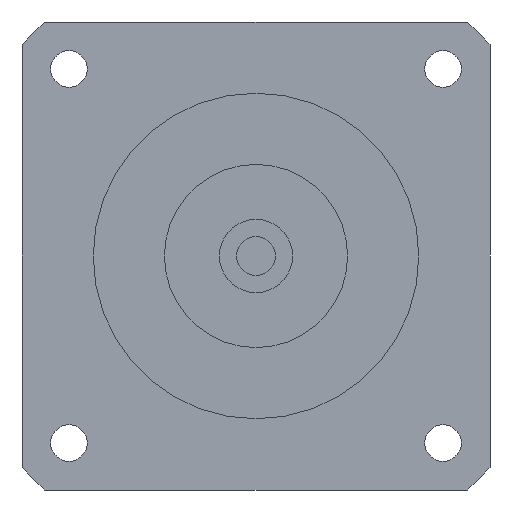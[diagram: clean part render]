
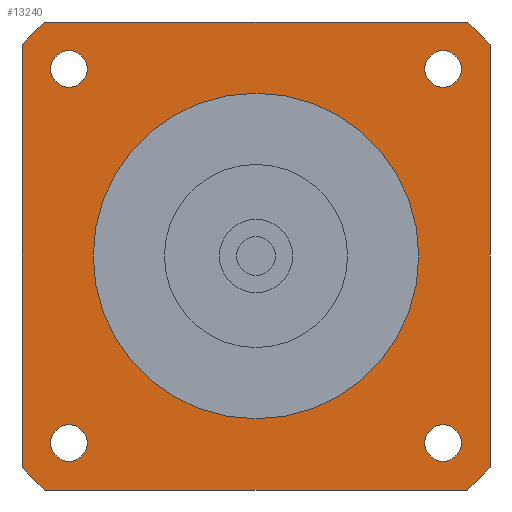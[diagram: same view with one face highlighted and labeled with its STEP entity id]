
A CAD part, left-side view. The second image highlights one B-rep face of the part: STEP entity #13240.
In plain terms, the highlighted planar face has unit normal (-1, 0, 0) as drawn and (0, 0, -1) by its records, which use the part's own axes.
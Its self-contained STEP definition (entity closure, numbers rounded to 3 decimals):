
#8660=CARTESIAN_POINT('',(-51.962,57.5,-43.2));
#8670=VERTEX_POINT('',#8660);
#8830=CARTESIAN_POINT('',(-57.5,51.962,-43.2));
#8840=VERTEX_POINT('',#8830);
#8870=CARTESIAN_POINT('',(0.,0.,
-43.2));
#8880=DIRECTION('',(0.,0.,-1.));
#8890=DIRECTION('',(-1.,0.,0.));
#8900=AXIS2_PLACEMENT_3D('',#8870,#8880,#8890);
#8910=CIRCLE('',#8900,77.5);
#8920=EDGE_CURVE('',#8840,#8670,#8910,.T.);
#9080=CARTESIAN_POINT('',(57.5,-51.962,-43.2));
#9090=VERTEX_POINT('',#9080);
#9120=CARTESIAN_POINT('',(0.,0.,
-43.2));
#9130=DIRECTION('',(0.,0.,-1.));
#9140=DIRECTION('',(-1.,0.,0.));
#9150=AXIS2_PLACEMENT_3D('',#9120,#9130,#9140);
#9160=CIRCLE('',#9150,77.5);
#9170=CARTESIAN_POINT('',(51.962,-57.5,-43.2));
#9180=VERTEX_POINT('',#9170);
#9190=EDGE_CURVE('',#9090,#9180,#9160,.T.);
#11810=CARTESIAN_POINT('',(50.462,-45.962,-43.2));
#11820=VERTEX_POINT('',#11810);
#11850=CARTESIAN_POINT('',(45.962,-45.962,-43.2));
#11860=DIRECTION('',(0.,0.,-1.));
#11870=DIRECTION('',(1.,0.,0.));
#11880=AXIS2_PLACEMENT_3D('',#11850,#11860,#11870);
#11890=CIRCLE('',#11880,4.5);
#11900=CARTESIAN_POINT('',(41.462,-45.962,-43.2));
#11910=VERTEX_POINT('',#11900);
#11920=EDGE_CURVE('',#11910,#11820,#11890,.T.);
#12040=CARTESIAN_POINT('',(0.,0.,
-43.2));
#12050=DIRECTION('',(0.,0.,-1.));
#12060=DIRECTION('',(1.,0.,0.));
#12070=AXIS2_PLACEMENT_3D('',#12040,#12050,#12060);
#12080=PLANE('',#12070);
#12090=CARTESIAN_POINT('',(45.962,45.962,-43.2));
#12100=DIRECTION('',(0.,0.,-1.));
#12110=DIRECTION('',(1.,0.,0.));
#12120=AXIS2_PLACEMENT_3D('',#12090,#12100,#12110);
#12130=CIRCLE('',#12120,4.5);
#12140=CARTESIAN_POINT('',(50.462,45.962,-43.2));
#12150=VERTEX_POINT('',#12140);
#12160=CARTESIAN_POINT('',(41.462,45.962,-43.2));
#12170=VERTEX_POINT('',#12160);
#12180=EDGE_CURVE('',#12150,#12170,#12130,.T.);
#12190=ORIENTED_EDGE('',*,*,#12180,.F.);
#12200=EDGE_CURVE('',#12170,#12150,#12130,.T.);
#12210=ORIENTED_EDGE('',*,*,#12200,.F.);
#12220=EDGE_LOOP('',(#12210,#12190));
#12230=FACE_BOUND('',#12220,.T.);
#12240=CARTESIAN_POINT('',(-45.962,45.962,-43.2));
#12250=DIRECTION('',(0.,0.,-1.));
#12260=DIRECTION('',(1.,0.,0.));
#12270=AXIS2_PLACEMENT_3D('',#12240,#12250,#12260);
#12280=CIRCLE('',#12270,4.5);
#12290=CARTESIAN_POINT('',(-41.462,45.962,-43.2));
#12300=VERTEX_POINT('',#12290);
#12310=CARTESIAN_POINT('',(-50.462,45.962,-43.2));
#12320=VERTEX_POINT('',#12310);
#12330=EDGE_CURVE('',#12300,#12320,#12280,.T.);
#12340=ORIENTED_EDGE('',*,*,#12330,.F.);
#12350=EDGE_CURVE('',#12320,#12300,#12280,.T.);
#12360=ORIENTED_EDGE('',*,*,#12350,.F.);
#12370=EDGE_LOOP('',(#12360,#12340));
#12380=FACE_BOUND('',#12370,.T.);
#12390=CARTESIAN_POINT('',(0.,0.,
-43.2));
#12400=DIRECTION('',(0.,0.,1.));
#12410=DIRECTION('',(1.,0.,0.));
#12420=AXIS2_PLACEMENT_3D('',#12390,#12400,#12410);
#12430=CIRCLE('',#12420,40.);
#12440=CARTESIAN_POINT('',(40.,0.,-43.2));
#12450=VERTEX_POINT('',#12440);
#12460=CARTESIAN_POINT('',(-40.,0.,-43.2));
#12470=VERTEX_POINT('',#12460);
#12480=EDGE_CURVE('',#12450,#12470,#12430,.T.);
#12490=ORIENTED_EDGE('',*,*,#12480,.T.);
#12500=EDGE_CURVE('',#12470,#12450,#12430,.T.);
#12510=ORIENTED_EDGE('',*,*,#12500,.T.);
#12520=EDGE_LOOP('',(#12510,#12490));
#12530=FACE_BOUND('',#12520,.T.);
#12540=CARTESIAN_POINT('',(-45.962,-45.962,-43.2));
#12550=DIRECTION('',(0.,0.,-1.));
#12560=DIRECTION('',(1.,0.,0.));
#12570=AXIS2_PLACEMENT_3D('',#12540,#12550,#12560);
#12580=CIRCLE('',#12570,4.5);
#12590=CARTESIAN_POINT('',(-41.462,-45.962,-43.2));
#12600=VERTEX_POINT('',#12590);
#12610=CARTESIAN_POINT('',(-50.462,-45.962,-43.2));
#12620=VERTEX_POINT('',#12610);
#12630=EDGE_CURVE('',#12600,#12620,#12580,.T.);
#12640=ORIENTED_EDGE('',*,*,#12630,.F.);
#12650=EDGE_CURVE('',#12620,#12600,#12580,.T.);
#12660=ORIENTED_EDGE('',*,*,#12650,.F.);
#12670=EDGE_LOOP('',(#12660,#12640));
#12680=FACE_BOUND('',#12670,.T.);
#12690=EDGE_CURVE('',#11820,#11910,#11890,.T.);
#12700=ORIENTED_EDGE('',*,*,#12690,.F.);
#12710=ORIENTED_EDGE('',*,*,#11920,.F.);
#12720=EDGE_LOOP('',(#12710,#12700));
#12730=FACE_BOUND('',#12720,.T.);
#12740=CARTESIAN_POINT('',(57.5,-57.5,-43.2));
#12750=DIRECTION('',(-1.,0.,0.));
#12760=VECTOR('',#12750,1000.);
#12770=LINE('',#12740,#12760);
#12780=CARTESIAN_POINT('',(-51.962,-57.5,-43.2));
#12790=VERTEX_POINT('',#12780);
#12800=EDGE_CURVE('',#9180,#12790,#12770,.T.);
#12810=ORIENTED_EDGE('',*,*,#12800,.T.);
#12820=ORIENTED_EDGE('',*,*,#9190,.T.);
#12830=CARTESIAN_POINT('',(57.5,57.5,-43.2));
#12840=DIRECTION('',(0.,-1.,0.));
#12850=VECTOR('',#12840,1000.);
#12860=LINE('',#12830,#12850);
#12870=CARTESIAN_POINT('',(57.5,51.962,-43.2));
#12880=VERTEX_POINT('',#12870);
#12890=EDGE_CURVE('',#12880,#9090,#12860,.T.);
#12900=ORIENTED_EDGE('',*,*,#12890,.T.);
#12910=CARTESIAN_POINT('',(0.,0.,
-43.2));
#12920=DIRECTION('',(0.,0.,-1.));
#12930=DIRECTION('',(-1.,0.,0.));
#12940=AXIS2_PLACEMENT_3D('',#12910,#12920,#12930);
#12950=CIRCLE('',#12940,77.5);
#12960=CARTESIAN_POINT('',(51.962,57.5,-43.2));
#12970=VERTEX_POINT('',#12960);
#12980=EDGE_CURVE('',#12970,#12880,#12950,.T.);
#12990=ORIENTED_EDGE('',*,*,#12980,.T.);
#13000=CARTESIAN_POINT('',(-57.5,57.5,-43.2));
#13010=DIRECTION('',(1.,0.,0.));
#13020=VECTOR('',#13010,1000.);
#13030=LINE('',#13000,#13020);
#13040=EDGE_CURVE('',#8670,#12970,#13030,.T.);
#13050=ORIENTED_EDGE('',*,*,#13040,.T.);
#13060=ORIENTED_EDGE('',*,*,#8920,.T.);
#13070=CARTESIAN_POINT('',(-57.5,-57.5,-43.2));
#13080=DIRECTION('',(0.,1.,0.));
#13090=VECTOR('',#13080,1000.);
#13100=LINE('',#13070,#13090);
#13110=CARTESIAN_POINT('',(-57.5,-51.962,-43.2));
#13120=VERTEX_POINT('',#13110);
#13130=EDGE_CURVE('',#13120,#8840,#13100,.T.);
#13140=ORIENTED_EDGE('',*,*,#13130,.T.);
#13150=CARTESIAN_POINT('',(0.,0.,
-43.2));
#13160=DIRECTION('',(0.,0.,-1.));
#13170=DIRECTION('',(-1.,0.,0.));
#13180=AXIS2_PLACEMENT_3D('',#13150,#13160,#13170);
#13190=CIRCLE('',#13180,77.5);
#13200=EDGE_CURVE('',#12790,#13120,#13190,.T.);
#13210=ORIENTED_EDGE('',*,*,#13200,.T.);
#13220=EDGE_LOOP('',(#13210,#13140,#13060,#13050,#12990,#12900,#12820,
#12810));
#13230=FACE_OUTER_BOUND('',#13220,.T.);
#13240=ADVANCED_FACE('',(#12230,#12380,#12530,#12680,#12730,#13230),
#12080,.T.);
